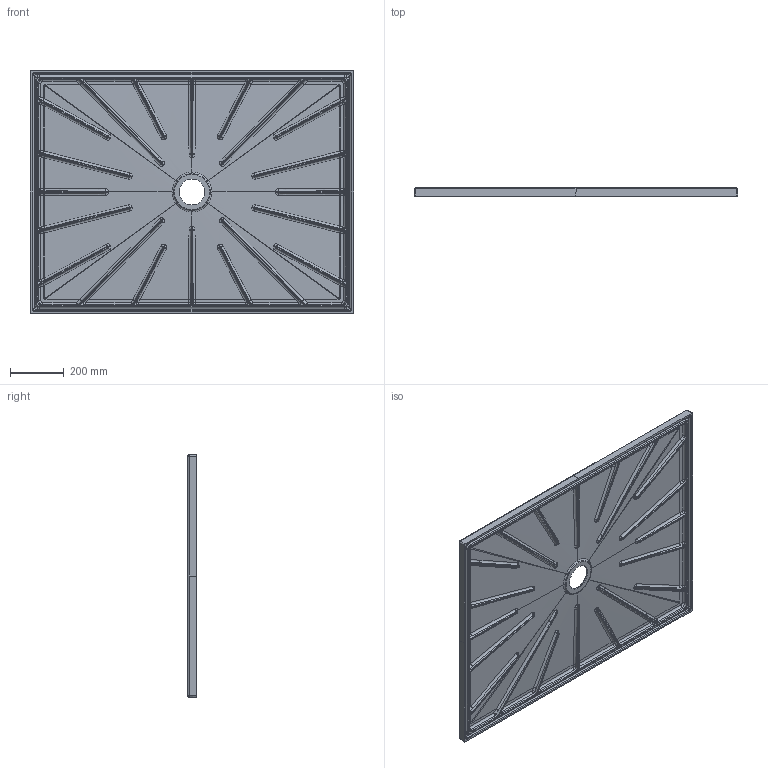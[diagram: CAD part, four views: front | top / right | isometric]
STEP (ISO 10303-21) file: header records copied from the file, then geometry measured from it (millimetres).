
FILE_DESCRIPTION(('CATIA V5 STEP Exchange'),'2;1');
FILE_NAME('C:\Users\167035\Downloads\3D ART1091.stp','2025-01-21T10:30:20+00:00',('none'),('none'),'CATIA Version 5 Release 19 SP 5 (IN-10)','CATIA V5 STEP AP214','none');
FILE_SCHEMA(('AUTOMOTIVE_DESIGN { 1 0 10303 214 1 1 1 1 }'));
Products named in the file (1): 120X90 H3 LISCIO
Bounding box: 1200 x 31.5 x 900 mm (x, y, z)
Volume: 17668705.3 mm3; surface area: 2462710.3 mm2
Topology: 1 solids, 1 shells, 936 faces, 2354 edges, 1312 vertices
Faces by surface type: bspline 536, cylinder 244, plane 84, sphere 44, torus 20, cone 8
Entity records: 89051 total; most frequent: CARTESIAN_POINT 72820, ORIENTED_EDGE 4484, EDGE_CURVE 2242, B_SPLINE_CURVE_WITH_KNOTS 1563, VERTEX_POINT 1312, DIRECTION 1305, EDGE_LOOP 942, ADVANCED_FACE 936
